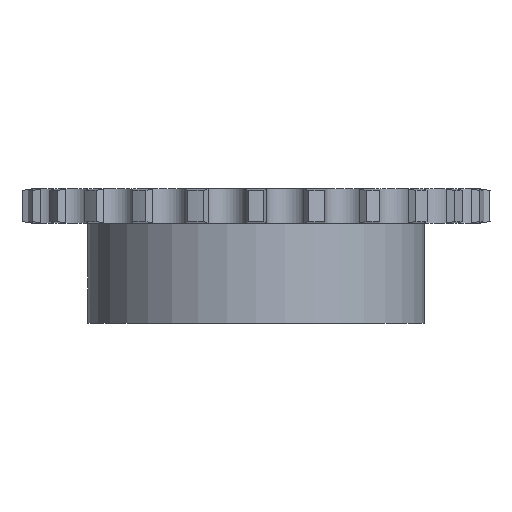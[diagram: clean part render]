
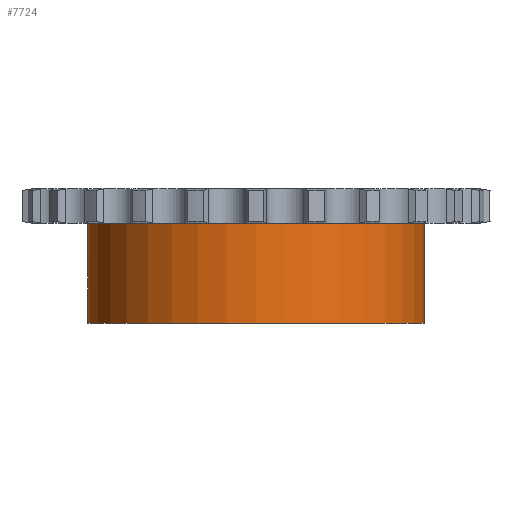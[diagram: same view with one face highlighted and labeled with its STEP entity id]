
A CAD part, front view. The second image highlights one B-rep face of the part: STEP entity #7724.
In plain terms, the highlighted cylindrical face has radius 35 mm (diameter 70 mm), a partial arc.
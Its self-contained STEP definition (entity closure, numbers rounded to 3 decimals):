
#1435=CARTESIAN_POINT('',(0.,0.,-3.6));
#1436=DIRECTION('',(0.,0.,1.));
#1437=DIRECTION('',(-1.,0.,0.));
#1438=AXIS2_PLACEMENT_3D('',#1435,#1436,#1437);
#3925=CARTESIAN_POINT('',(-35.,0.,
-12.));
#3947=DIRECTION('',(0.,0.,1.));
#3948=VECTOR('',#3947,20.8);
#3949=CARTESIAN_POINT('',(35.,0.,-24.4));
#3950=LINE('',#3949,#3948);
#4062=CARTESIAN_POINT('',(-35.,0.,
-12.));
#4063=CARTESIAN_POINT('',(-35.,-0.105,
-12.));
#4064=CARTESIAN_POINT('',(-34.999,-0.313,
-12.016));
#4065=CARTESIAN_POINT('',(-34.995,-0.627,
-12.09));
#4066=CARTESIAN_POINT('',(-34.988,-0.926,
-12.213));
#4067=CARTESIAN_POINT('',(-34.98,-1.198,
-12.38));
#4068=CARTESIAN_POINT('',(-34.971,-1.439,
-12.585));
#4069=CARTESIAN_POINT('',(-34.961,-1.645,
-12.825));
#4070=CARTESIAN_POINT('',(-34.953,-1.812,
-13.097));
#4071=CARTESIAN_POINT('',(-34.947,-1.933,
-13.391));
#4072=CARTESIAN_POINT('',(-34.943,-2.005,
-13.697));
#4073=CARTESIAN_POINT('',(-34.942,-2.02,
-13.899));
#4074=CARTESIAN_POINT('',(-34.942,-2.02,
-14.));
#4079=DIRECTION('',(0.,0.,1.));
#4080=VECTOR('',#4079,8.4);
#4081=CARTESIAN_POINT('',(-35.,0.,
-12.));
#4082=LINE('',#4081,#4080);
#4086=DIRECTION('',(0.,0.,1.));
#4087=VECTOR('',#4086,8.4);
#4088=CARTESIAN_POINT('',(-35.,0.,-24.4));
#4089=LINE('',#4088,#4087);
#4093=CARTESIAN_POINT('',(-34.942,-2.02,
-14.));
#4094=CARTESIAN_POINT('',(-34.942,-2.02,
-14.101));
#4095=CARTESIAN_POINT('',(-34.943,-2.005,
-14.302));
#4096=CARTESIAN_POINT('',(-34.947,-1.934,
-14.608));
#4097=CARTESIAN_POINT('',(-34.953,-1.813,
-14.902));
#4098=CARTESIAN_POINT('',(-34.961,-1.646,
-15.174));
#4099=CARTESIAN_POINT('',(-34.971,-1.44,
-15.415));
#4100=CARTESIAN_POINT('',(-34.98,-1.199,
-15.62));
#4101=CARTESIAN_POINT('',(-34.988,-0.926,
-15.787));
#4102=CARTESIAN_POINT('',(-34.995,-0.628,
-15.91));
#4103=CARTESIAN_POINT('',(-34.999,-0.314,
-15.984));
#4104=CARTESIAN_POINT('',(-35.,-0.105,
-16.));
#4105=CARTESIAN_POINT('',(-35.,0.,
-16.));
#4118=CARTESIAN_POINT('',(0.,0.,-24.4));
#4119=DIRECTION('',(0.,0.,-1.));
#4120=DIRECTION('',(1.,0.,0.));
#4121=AXIS2_PLACEMENT_3D('',#4118,#4119,#4120);
#4527=CARTESIAN_POINT('',(-35.,0.,-24.4));
#4528=CARTESIAN_POINT('',(35.,0.,-24.4));
#4529=VERTEX_POINT('',#4527);
#4530=VERTEX_POINT('',#4528);
#4531=CARTESIAN_POINT('',(35.,0.,-3.6));
#4532=VERTEX_POINT('',#4531);
#4533=CARTESIAN_POINT('',(-35.,0.,-3.6));
#4534=VERTEX_POINT('',#4533);
#4806=VERTEX_POINT('',#3925);
#4809=VERTEX_POINT('',#4074);
#4811=VERTEX_POINT('',#4105);
#7708=CARTESIAN_POINT('',(0.,0.,3.6));
#7709=DIRECTION('',(0.,0.,1.));
#7710=DIRECTION('',(1.,0.,0.));
#7711=AXIS2_PLACEMENT_3D('',#7708,#7709,#7710);
#7712=CYLINDRICAL_SURFACE('',#7711,35.);
#7713=ORIENTED_EDGE('',*,*,#7698,.F.);
#7714=ORIENTED_EDGE('',*,*,#7345,.T.);
#7715=ORIENTED_EDGE('',*,*,#6400,.T.);
#7716=ORIENTED_EDGE('',*,*,#7342,.F.);
#7718=ORIENTED_EDGE('',*,*,#7717,.T.);
#7719=ORIENTED_EDGE('',*,*,#7338,.T.);
#7721=ORIENTED_EDGE('',*,*,#7720,.F.);
#7722=EDGE_LOOP('',(#7713,#7714,#7715,#7716,#7718,#7719,#7721));
#7723=FACE_OUTER_BOUND('',#7722,.F.);
#7724=ADVANCED_FACE('',(#7723),#7712,.T.);
#1439=CIRCLE('',#1438,35.);
#4075=B_SPLINE_CURVE_WITH_KNOTS('',3,(#4062,#4063,#4064,#4065,#4066,#4067,#4068,
#4069,#4070,#4071,#4072,#4073,#4074),.UNSPECIFIED.,.F.,.F.,(4,1,1,1,1,1,1,1,1,1,
4),(0.,0.1,0.2,0.3,0.4,0.5,0.6,0.7,0.8,0.9,1.),
.UNSPECIFIED.);
#4106=B_SPLINE_CURVE_WITH_KNOTS('',3,(#4093,#4094,#4095,#4096,#4097,#4098,#4099,
#4100,#4101,#4102,#4103,#4104,#4105),.UNSPECIFIED.,.F.,.F.,(4,1,1,1,1,1,1,1,1,1,
4),(0.,0.1,0.2,0.3,0.4,0.5,0.6,0.7,0.8,0.9,1.),
.UNSPECIFIED.);
#4122=CIRCLE('',#4121,35.);
#6400=EDGE_CURVE('',#4534,#4532,#1439,.T.);
#7338=EDGE_CURVE('',#4529,#4811,#4089,.T.);
#7342=EDGE_CURVE('',#4530,#4532,#3950,.T.);
#7345=EDGE_CURVE('',#4806,#4534,#4082,.T.);
#7698=EDGE_CURVE('',#4806,#4809,#4075,.T.);
#7717=EDGE_CURVE('',#4530,#4529,#4122,.T.);
#7720=EDGE_CURVE('',#4809,#4811,#4106,.T.);
